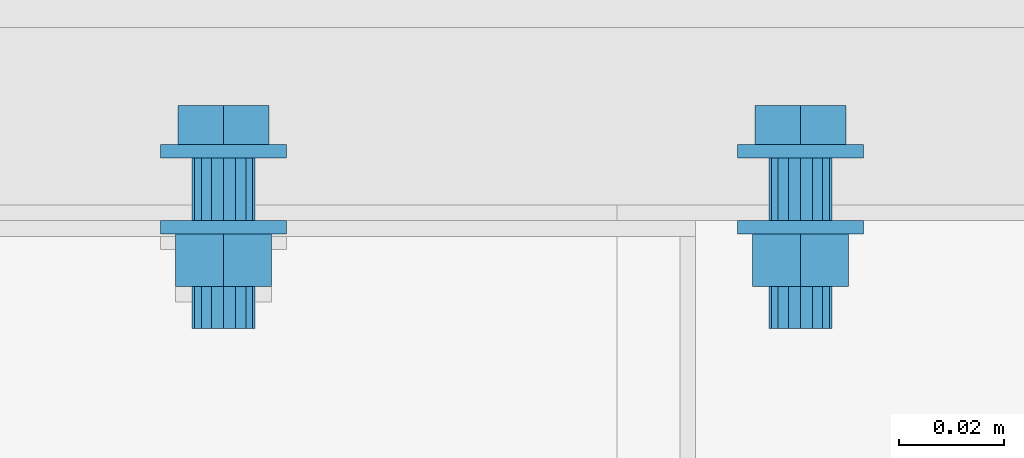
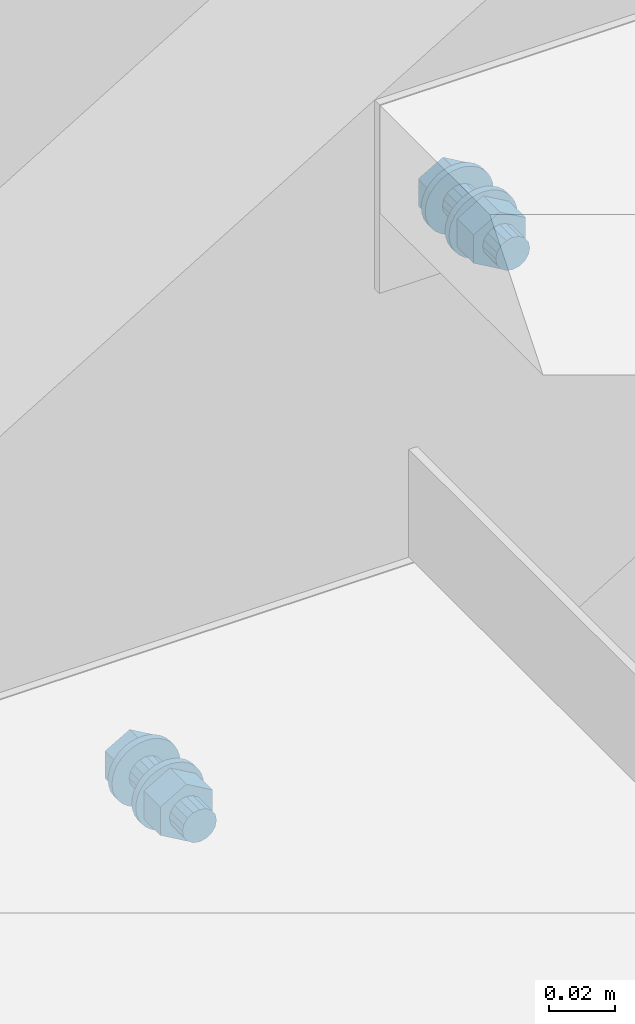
# One storey, part 296 of 410: 2 mechanical fasteners.
"""IFC2X3 building model written with IfcOpenShell, lengths in millimetres."""

from ifc_helpers import new_model, entity, si_unit, converted_unit, origin_with_axes, place, context, project, spatial, faceted_brep, element, save


model = new_model("IFC2X3")

# Units and contexts
model_context = context("Model", 3, precision=1e-09, world=origin_with_axes())
ifc_project = project(units=[si_unit("LENGTHUNIT", "METRE", prefix="MILLI"), si_unit("AREAUNIT", "SQUARE_METRE"), si_unit("VOLUMEUNIT", "CUBIC_METRE"), converted_unit("PLANEANGLEUNIT", "DEGREE", entity("IfcPlaneAngleMeasure", 0.01745329), si_unit("PLANEANGLEUNIT", "RADIAN"), dimensions=[0, 0, 0, 0, 0, 0, 0])], contexts=[model_context])

# Site, building, storey
site_placement = place(None, origin_with_axes())
site = spatial("IfcSite", under=ifc_project, at=site_placement, Name="mKR Teilneubau & Sanierung BA1 - Ostfildern", CompositionType="ELEMENT")
building_placement = place(site_placement, origin_with_axes())
building = spatial("IfcBuilding", under=site, at=building_placement, Name="Struktur 1", CompositionType="ELEMENT")
storey_placement = place(building_placement, origin_with_axes())
storey = spatial("IfcBuildingStorey", under=building, at=storey_placement, Name="Default Storey", CompositionType="ELEMENT", Elevation=0.0)

# Mechanical fasteners
mechanical_fastener_1_placement = place(None, origin_with_axes())
element("IfcMechanicalFastener", 1, at=mechanical_fastener_1_placement, inside=storey, ObjectType="Bolt", NominalDiameter=12.0, NominalLength=35.0, context=model_context, shape_type="Brep", body=[
    faceted_brep([(818.0, 16731.499999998, 1336.304348), (818.0, 16728.999999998, 1336.304348), (818.230576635, 16728.999999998, 1338.645431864), (818.230576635, 16731.499999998, 1338.645431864), (818.91344561, 16728.999999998, 1340.896549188), (818.91344561, 16731.499999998, 1340.896549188), (820.022364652, 16728.999999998, 1342.971190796), (820.022364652, 16731.499999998, 1342.971190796), (821.514718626, 16728.999999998, 1344.789629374), (821.514718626, 16731.499999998, 1344.789629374), (823.333157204, 16728.999999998, 1346.281983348), (823.333157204, 16731.499999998, 1346.281983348), (825.407798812, 16728.999999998, 1347.39090239), (825.407798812, 16731.499999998, 1347.39090239), (827.658916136, 16728.999999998, 1348.073771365), (827.658916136, 16731.499999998, 1348.073771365), (830.0, 16728.999999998, 1348.304348), (830.0, 16731.499999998, 1348.304348), (832.341083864, 16728.999999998, 1348.073771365), (832.341083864, 16731.499999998, 1348.073771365), (834.592201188, 16728.999999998, 1347.39090239), (834.592201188, 16731.499999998, 1347.39090239), (836.666842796, 16728.999999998, 1346.281983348), (836.666842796, 16731.499999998, 1346.281983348), (838.485281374, 16728.999999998, 1344.789629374), (838.485281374, 16731.499999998, 1344.789629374), (839.977635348, 16728.999999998, 1342.971190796), (839.977635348, 16731.499999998, 1342.971190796), (841.08655439, 16728.999999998, 1340.896549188), (841.08655439, 16731.499999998, 1340.896549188), (841.769423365, 16728.999999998, 1338.645431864), (841.769423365, 16731.499999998, 1338.645431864), (842.0, 16728.999999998, 1336.304348), (842.0, 16731.499999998, 1336.304348), (841.769423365, 16728.999999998, 1333.963264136), (841.769423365, 16731.499999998, 1333.963264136), (841.08655439, 16728.999999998, 1331.712146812), (841.08655439, 16731.499999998, 1331.712146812), (839.977635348, 16728.999999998, 1329.637505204), (839.977635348, 16731.499999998, 1329.637505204), (838.485281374, 16728.999999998, 1327.819066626), (838.485281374, 16731.499999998, 1327.819066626), (836.666842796, 16728.999999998, 1326.326712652), (836.666842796, 16731.499999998, 1326.326712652), (834.592201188, 16728.999999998, 1325.21779361), (834.592201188, 16731.499999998, 1325.21779361), (832.341083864, 16728.999999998, 1324.534924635), (832.341083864, 16731.499999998, 1324.534924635), (830.0, 16728.999999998, 1324.304348), (830.0, 16731.499999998, 1324.304348), (827.658916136, 16728.999999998, 1324.534924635), (827.658916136, 16731.499999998, 1324.534924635), (825.407798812, 16728.999999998, 1325.21779361), (825.407798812, 16731.499999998, 1325.21779361), (823.333157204, 16728.999999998, 1326.326712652), (823.333157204, 16731.499999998, 1326.326712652), (821.514718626, 16728.999999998, 1327.819066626), (821.514718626, 16731.499999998, 1327.819066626), (820.022364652, 16728.999999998, 1329.637505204), (820.022364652, 16731.499999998, 1329.637505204), (818.91344561, 16728.999999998, 1331.712146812), (818.91344561, 16731.499999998, 1331.712146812), (818.230576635, 16728.999999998, 1333.963264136), (818.230576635, 16731.499999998, 1333.963264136)], [[[0, 1, 2, 3]], [[3, 2, 4, 5]], [[5, 4, 6, 7]], [[7, 6, 8, 9]], [[9, 8, 10, 11]], [[11, 10, 12, 13]], [[13, 12, 14, 15]], [[15, 14, 16, 17]], [[17, 16, 18, 19]], [[19, 18, 20, 21]], [[21, 20, 22, 23]], [[23, 22, 24, 25]], [[25, 24, 26, 27]], [[27, 26, 28, 29]], [[29, 28, 30, 31]], [[31, 30, 32, 33]], [[33, 32, 34, 35]], [[35, 34, 36, 37]], [[37, 36, 38, 39]], [[39, 38, 40, 41]], [[41, 40, 42, 43]], [[43, 42, 44, 45]], [[45, 44, 46, 47]], [[47, 46, 48, 49]], [[49, 48, 50, 51]], [[51, 50, 52, 53]], [[53, 52, 54, 55]], [[55, 54, 56, 57]], [[57, 56, 58, 59]], [[59, 58, 60, 61]], [[61, 60, 62, 63]], [[63, 62, 1, 0]], [[0, 3, 5, 7, 9, 11, 13, 15, 17, 19, 21, 23, 25, 27, 29, 31, 33, 35, 37, 39, 41, 43, 45, 47, 49, 51, 53, 55, 57, 59, 61, 63]], [[1, 62, 60, 58, 56, 54, 52, 50, 48, 46, 44, 42, 40, 38, 36, 34, 32, 30, 28, 26, 24, 22, 20, 18, 16, 14, 12, 10, 8, 6, 4, 2]]]),
    faceted_brep([(838.673244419, 16731.499999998, 1341.311848), (838.673244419, 16738.999999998, 1341.311848), (830.0, 16738.999999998, 1346.319348), (830.0, 16731.499999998, 1346.319348), (821.326755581, 16738.999999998, 1341.311848), (821.326755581, 16731.499999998, 1341.311848), (821.326755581, 16738.999999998, 1331.296848), (821.326755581, 16731.499999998, 1331.296848), (830.0, 16738.999999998, 1326.289348), (830.0, 16731.499999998, 1326.289348), (838.673244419, 16738.999999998, 1331.296848), (838.673244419, 16731.499999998, 1331.296848)], [[[0, 1, 2, 3]], [[3, 2, 4, 5]], [[5, 4, 6, 7]], [[7, 6, 8, 9]], [[9, 8, 10, 11]], [[11, 10, 1, 0]], [[4, 2, 1, 10, 8, 6]], [[0, 3, 5, 7, 9, 11]]]),
    faceted_brep([(824.0, 16728.999999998, 1336.304348), (824.0, 16716.999999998, 1336.304348), (824.456722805, 16716.999999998, 1338.600448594), (824.456722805, 16728.999999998, 1338.600448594), (825.757359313, 16716.999999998, 1340.546988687), (825.757359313, 16728.999999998, 1340.546988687), (827.703899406, 16716.999999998, 1341.847625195), (827.703899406, 16728.999999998, 1341.847625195), (830.0, 16716.999999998, 1342.304348), (830.0, 16728.999999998, 1342.304348), (832.296100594, 16716.999999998, 1341.847625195), (832.296100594, 16728.999999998, 1341.847625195), (834.242640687, 16716.999999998, 1340.546988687), (834.242640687, 16728.999999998, 1340.546988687), (835.543277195, 16716.999999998, 1338.600448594), (835.543277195, 16728.999999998, 1338.600448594), (836.0, 16716.999999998, 1336.304348), (836.0, 16728.999999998, 1336.304348), (835.543277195, 16716.999999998, 1334.008247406), (835.543277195, 16728.999999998, 1334.008247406), (834.242640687, 16716.999999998, 1332.061707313), (834.242640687, 16728.999999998, 1332.061707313), (832.296100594, 16716.999999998, 1330.761070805), (832.296100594, 16728.999999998, 1330.761070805), (830.0, 16716.999999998, 1330.304348), (830.0, 16728.999999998, 1330.304348), (827.703899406, 16716.999999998, 1330.761070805), (827.703899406, 16728.999999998, 1330.761070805), (825.757359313, 16716.999999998, 1332.061707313), (825.757359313, 16728.999999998, 1332.061707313), (824.456722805, 16716.999999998, 1334.008247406), (824.456722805, 16728.999999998, 1334.008247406)], [[[0, 1, 2, 3]], [[3, 2, 4, 5]], [[5, 4, 6, 7]], [[7, 6, 8, 9]], [[9, 8, 10, 11]], [[11, 10, 12, 13]], [[13, 12, 14, 15]], [[15, 14, 16, 17]], [[17, 16, 18, 19]], [[19, 18, 20, 21]], [[21, 20, 22, 23]], [[23, 22, 24, 25]], [[25, 24, 26, 27]], [[27, 26, 28, 29]], [[29, 28, 30, 31]], [[31, 30, 1, 0]], [[0, 3, 5, 7, 9, 11, 13, 15, 17, 19, 21, 23, 25, 27, 29, 31]], [[1, 30, 28, 26, 24, 22, 20, 18, 16, 14, 12, 10, 8, 6, 4, 2]]]),
    faceted_brep([(818.0, 16716.999999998, 1336.304348), (818.0, 16714.499999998, 1336.304348), (818.230576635, 16714.499999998, 1338.645431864), (818.230576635, 16716.999999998, 1338.645431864), (818.91344561, 16714.499999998, 1340.896549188), (818.91344561, 16716.999999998, 1340.896549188), (820.022364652, 16714.499999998, 1342.971190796), (820.022364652, 16716.999999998, 1342.971190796), (821.514718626, 16714.499999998, 1344.789629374), (821.514718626, 16716.999999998, 1344.789629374), (823.333157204, 16714.499999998, 1346.281983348), (823.333157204, 16716.999999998, 1346.281983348), (825.407798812, 16714.499999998, 1347.39090239), (825.407798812, 16716.999999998, 1347.39090239), (827.658916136, 16714.499999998, 1348.073771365), (827.658916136, 16716.999999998, 1348.073771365), (830.0, 16714.499999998, 1348.304348), (830.0, 16716.999999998, 1348.304348), (832.341083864, 16714.499999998, 1348.073771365), (832.341083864, 16716.999999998, 1348.073771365), (834.592201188, 16714.499999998, 1347.39090239), (834.592201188, 16716.999999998, 1347.39090239), (836.666842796, 16714.499999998, 1346.281983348), (836.666842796, 16716.999999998, 1346.281983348), (838.485281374, 16714.499999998, 1344.789629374), (838.485281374, 16716.999999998, 1344.789629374), (839.977635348, 16714.499999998, 1342.971190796), (839.977635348, 16716.999999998, 1342.971190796), (841.08655439, 16714.499999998, 1340.896549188), (841.08655439, 16716.999999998, 1340.896549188), (841.769423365, 16714.499999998, 1338.645431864), (841.769423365, 16716.999999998, 1338.645431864), (842.0, 16714.499999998, 1336.304348), (842.0, 16716.999999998, 1336.304348), (841.769423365, 16714.499999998, 1333.963264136), (841.769423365, 16716.999999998, 1333.963264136), (841.08655439, 16714.499999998, 1331.712146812), (841.08655439, 16716.999999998, 1331.712146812), (839.977635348, 16714.499999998, 1329.637505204), (839.977635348, 16716.999999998, 1329.637505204), (838.485281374, 16714.499999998, 1327.819066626), (838.485281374, 16716.999999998, 1327.819066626), (836.666842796, 16714.499999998, 1326.326712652), (836.666842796, 16716.999999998, 1326.326712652), (834.592201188, 16714.499999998, 1325.21779361), (834.592201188, 16716.999999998, 1325.21779361), (832.341083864, 16714.499999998, 1324.534924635), (832.341083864, 16716.999999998, 1324.534924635), (830.0, 16714.499999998, 1324.304348), (830.0, 16716.999999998, 1324.304348), (827.658916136, 16714.499999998, 1324.534924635), (827.658916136, 16716.999999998, 1324.534924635), (825.407798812, 16714.499999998, 1325.21779361), (825.407798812, 16716.999999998, 1325.21779361), (823.333157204, 16714.499999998, 1326.326712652), (823.333157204, 16716.999999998, 1326.326712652), (821.514718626, 16714.499999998, 1327.819066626), (821.514718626, 16716.999999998, 1327.819066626), (820.022364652, 16714.499999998, 1329.637505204), (820.022364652, 16716.999999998, 1329.637505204), (818.91344561, 16714.499999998, 1331.712146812), (818.91344561, 16716.999999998, 1331.712146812), (818.230576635, 16714.499999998, 1333.963264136), (818.230576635, 16716.999999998, 1333.963264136)], [[[0, 1, 2, 3]], [[3, 2, 4, 5]], [[5, 4, 6, 7]], [[7, 6, 8, 9]], [[9, 8, 10, 11]], [[11, 10, 12, 13]], [[13, 12, 14, 15]], [[15, 14, 16, 17]], [[17, 16, 18, 19]], [[19, 18, 20, 21]], [[21, 20, 22, 23]], [[23, 22, 24, 25]], [[25, 24, 26, 27]], [[27, 26, 28, 29]], [[29, 28, 30, 31]], [[31, 30, 32, 33]], [[33, 32, 34, 35]], [[35, 34, 36, 37]], [[37, 36, 38, 39]], [[39, 38, 40, 41]], [[41, 40, 42, 43]], [[43, 42, 44, 45]], [[45, 44, 46, 47]], [[47, 46, 48, 49]], [[49, 48, 50, 51]], [[51, 50, 52, 53]], [[53, 52, 54, 55]], [[55, 54, 56, 57]], [[57, 56, 58, 59]], [[59, 58, 60, 61]], [[61, 60, 62, 63]], [[63, 62, 1, 0]], [[0, 3, 5, 7, 9, 11, 13, 15, 17, 19, 21, 23, 25, 27, 29, 31, 33, 35, 37, 39, 41, 43, 45, 47, 49, 51, 53, 55, 57, 59, 61, 63]], [[1, 62, 60, 58, 56, 54, 52, 50, 48, 46, 44, 42, 40, 38, 36, 34, 32, 30, 28, 26, 24, 22, 20, 18, 16, 14, 12, 10, 8, 6, 4, 2]]]),
    faceted_brep([(839.13656801, 16704.499999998, 1341.579348), (839.13656801, 16714.499999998, 1341.579348), (830.0, 16714.499999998, 1346.854348), (830.0, 16704.499999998, 1346.854348), (820.86343199, 16714.499999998, 1341.579348), (820.86343199, 16704.499999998, 1341.579348), (820.86343199, 16714.499999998, 1331.029348), (820.86343199, 16704.499999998, 1331.029348), (830.0, 16714.499999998, 1325.754348), (830.0, 16704.499999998, 1325.754348), (839.13656801, 16714.499999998, 1331.029348), (839.13656801, 16704.499999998, 1331.029348)], [[[0, 1, 2, 3]], [[3, 2, 4, 5]], [[5, 4, 6, 7]], [[7, 6, 8, 9]], [[9, 8, 10, 11]], [[11, 10, 1, 0]], [[4, 2, 1, 10, 8, 6]], [[0, 3, 5, 7, 9, 11]]]),
    faceted_brep([(824.0, 16704.499999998, 1336.304348), (824.0, 16696.499999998, 1336.304348), (824.456722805, 16696.499999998, 1338.600448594), (824.456722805, 16704.499999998, 1338.600448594), (825.757359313, 16696.499999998, 1340.546988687), (825.757359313, 16704.499999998, 1340.546988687), (827.703899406, 16696.499999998, 1341.847625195), (827.703899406, 16704.499999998, 1341.847625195), (830.0, 16696.499999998, 1342.304348), (830.0, 16704.499999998, 1342.304348), (832.296100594, 16696.499999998, 1341.847625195), (832.296100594, 16704.499999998, 1341.847625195), (834.242640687, 16696.499999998, 1340.546988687), (834.242640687, 16704.499999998, 1340.546988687), (835.543277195, 16696.499999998, 1338.600448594), (835.543277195, 16704.499999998, 1338.600448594), (836.0, 16696.499999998, 1336.304348), (836.0, 16704.499999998, 1336.304348), (835.543277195, 16696.499999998, 1334.008247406), (835.543277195, 16704.499999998, 1334.008247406), (834.242640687, 16696.499999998, 1332.061707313), (834.242640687, 16704.499999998, 1332.061707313), (832.296100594, 16696.499999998, 1330.761070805), (832.296100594, 16704.499999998, 1330.761070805), (830.0, 16696.499999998, 1330.304348), (830.0, 16704.499999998, 1330.304348), (827.703899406, 16696.499999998, 1330.761070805), (827.703899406, 16704.499999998, 1330.761070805), (825.757359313, 16696.499999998, 1332.061707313), (825.757359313, 16704.499999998, 1332.061707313), (824.456722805, 16696.499999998, 1334.008247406), (824.456722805, 16704.499999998, 1334.008247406)], [[[0, 1, 2, 3]], [[3, 2, 4, 5]], [[5, 4, 6, 7]], [[7, 6, 8, 9]], [[9, 8, 10, 11]], [[11, 10, 12, 13]], [[13, 12, 14, 15]], [[15, 14, 16, 17]], [[17, 16, 18, 19]], [[19, 18, 20, 21]], [[21, 20, 22, 23]], [[23, 22, 24, 25]], [[25, 24, 26, 27]], [[27, 26, 28, 29]], [[29, 28, 30, 31]], [[31, 30, 1, 0]], [[0, 3, 5, 7, 9, 11, 13, 15, 17, 19, 21, 23, 25, 27, 29, 31]], [[1, 30, 28, 26, 24, 22, 20, 18, 16, 14, 12, 10, 8, 6, 4, 2]]]),
])
mechanical_fastener_2_placement = place(None, origin_with_axes())
element("IfcMechanicalFastener", 2, at=mechanical_fastener_2_placement, inside=storey, ObjectType="Bolt", NominalDiameter=12.0, NominalLength=35.0, context=model_context, shape_type="Brep", body=[
    faceted_brep([(928.0, 16731.499999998, 1510.2173915), (928.0, 16728.999999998, 1510.2173915), (928.230576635, 16728.999999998, 1512.558475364), (928.230576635, 16731.499999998, 1512.558475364), (928.91344561, 16728.999999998, 1514.809592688), (928.91344561, 16731.499999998, 1514.809592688), (930.022364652, 16728.999999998, 1516.884234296), (930.022364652, 16731.499999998, 1516.884234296), (931.514718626, 16728.999999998, 1518.702672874), (931.514718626, 16731.499999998, 1518.702672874), (933.333157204, 16728.999999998, 1520.195026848), (933.333157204, 16731.499999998, 1520.195026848), (935.407798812, 16728.999999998, 1521.30394589), (935.407798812, 16731.499999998, 1521.30394589), (937.658916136, 16728.999999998, 1521.986814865), (937.658916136, 16731.499999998, 1521.986814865), (940.0, 16728.999999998, 1522.2173915), (940.0, 16731.499999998, 1522.2173915), (942.341083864, 16728.999999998, 1521.986814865), (942.341083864, 16731.499999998, 1521.986814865), (944.592201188, 16728.999999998, 1521.30394589), (944.592201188, 16731.499999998, 1521.30394589), (946.666842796, 16728.999999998, 1520.195026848), (946.666842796, 16731.499999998, 1520.195026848), (948.485281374, 16728.999999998, 1518.702672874), (948.485281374, 16731.499999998, 1518.702672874), (949.977635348, 16728.999999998, 1516.884234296), (949.977635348, 16731.499999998, 1516.884234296), (951.08655439, 16728.999999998, 1514.809592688), (951.08655439, 16731.499999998, 1514.809592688), (951.769423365, 16728.999999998, 1512.558475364), (951.769423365, 16731.499999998, 1512.558475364), (952.0, 16728.999999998, 1510.2173915), (952.0, 16731.499999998, 1510.2173915), (951.769423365, 16728.999999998, 1507.876307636), (951.769423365, 16731.499999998, 1507.876307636), (951.08655439, 16728.999999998, 1505.625190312), (951.08655439, 16731.499999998, 1505.625190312), (949.977635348, 16728.999999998, 1503.550548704), (949.977635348, 16731.499999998, 1503.550548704), (948.485281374, 16728.999999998, 1501.732110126), (948.485281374, 16731.499999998, 1501.732110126), (946.666842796, 16728.999999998, 1500.239756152), (946.666842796, 16731.499999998, 1500.239756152), (944.592201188, 16728.999999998, 1499.13083711), (944.592201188, 16731.499999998, 1499.13083711), (942.341083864, 16728.999999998, 1498.447968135), (942.341083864, 16731.499999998, 1498.447968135), (940.0, 16728.999999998, 1498.2173915), (940.0, 16731.499999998, 1498.2173915), (937.658916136, 16728.999999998, 1498.447968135), (937.658916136, 16731.499999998, 1498.447968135), (935.407798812, 16728.999999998, 1499.13083711), (935.407798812, 16731.499999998, 1499.13083711), (933.333157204, 16728.999999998, 1500.239756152), (933.333157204, 16731.499999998, 1500.239756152), (931.514718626, 16728.999999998, 1501.732110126), (931.514718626, 16731.499999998, 1501.732110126), (930.022364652, 16728.999999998, 1503.550548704), (930.022364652, 16731.499999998, 1503.550548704), (928.91344561, 16728.999999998, 1505.625190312), (928.91344561, 16731.499999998, 1505.625190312), (928.230576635, 16728.999999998, 1507.876307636), (928.230576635, 16731.499999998, 1507.876307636)], [[[0, 1, 2, 3]], [[3, 2, 4, 5]], [[5, 4, 6, 7]], [[7, 6, 8, 9]], [[9, 8, 10, 11]], [[11, 10, 12, 13]], [[13, 12, 14, 15]], [[15, 14, 16, 17]], [[17, 16, 18, 19]], [[19, 18, 20, 21]], [[21, 20, 22, 23]], [[23, 22, 24, 25]], [[25, 24, 26, 27]], [[27, 26, 28, 29]], [[29, 28, 30, 31]], [[31, 30, 32, 33]], [[33, 32, 34, 35]], [[35, 34, 36, 37]], [[37, 36, 38, 39]], [[39, 38, 40, 41]], [[41, 40, 42, 43]], [[43, 42, 44, 45]], [[45, 44, 46, 47]], [[47, 46, 48, 49]], [[49, 48, 50, 51]], [[51, 50, 52, 53]], [[53, 52, 54, 55]], [[55, 54, 56, 57]], [[57, 56, 58, 59]], [[59, 58, 60, 61]], [[61, 60, 62, 63]], [[63, 62, 1, 0]], [[0, 3, 5, 7, 9, 11, 13, 15, 17, 19, 21, 23, 25, 27, 29, 31, 33, 35, 37, 39, 41, 43, 45, 47, 49, 51, 53, 55, 57, 59, 61, 63]], [[1, 62, 60, 58, 56, 54, 52, 50, 48, 46, 44, 42, 40, 38, 36, 34, 32, 30, 28, 26, 24, 22, 20, 18, 16, 14, 12, 10, 8, 6, 4, 2]]]),
    faceted_brep([(948.673244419, 16731.499999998, 1515.2248915), (948.673244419, 16738.999999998, 1515.2248915), (940.0, 16738.999999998, 1520.2323915), (940.0, 16731.499999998, 1520.2323915), (931.326755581, 16738.999999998, 1515.2248915), (931.326755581, 16731.499999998, 1515.2248915), (931.326755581, 16738.999999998, 1505.2098915), (931.326755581, 16731.499999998, 1505.2098915), (940.0, 16738.999999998, 1500.2023915), (940.0, 16731.499999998, 1500.2023915), (948.673244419, 16738.999999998, 1505.2098915), (948.673244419, 16731.499999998, 1505.2098915)], [[[0, 1, 2, 3]], [[3, 2, 4, 5]], [[5, 4, 6, 7]], [[7, 6, 8, 9]], [[9, 8, 10, 11]], [[11, 10, 1, 0]], [[4, 2, 1, 10, 8, 6]], [[0, 3, 5, 7, 9, 11]]]),
    faceted_brep([(934.0, 16728.999999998, 1510.2173915), (934.0, 16716.999999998, 1510.2173915), (934.456722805, 16716.999999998, 1512.513492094), (934.456722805, 16728.999999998, 1512.513492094), (935.757359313, 16716.999999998, 1514.460032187), (935.757359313, 16728.999999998, 1514.460032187), (937.703899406, 16716.999999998, 1515.760668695), (937.703899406, 16728.999999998, 1515.760668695), (940.0, 16716.999999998, 1516.2173915), (940.0, 16728.999999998, 1516.2173915), (942.296100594, 16716.999999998, 1515.760668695), (942.296100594, 16728.999999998, 1515.760668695), (944.242640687, 16716.999999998, 1514.460032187), (944.242640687, 16728.999999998, 1514.460032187), (945.543277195, 16716.999999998, 1512.513492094), (945.543277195, 16728.999999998, 1512.513492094), (946.0, 16716.999999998, 1510.2173915), (946.0, 16728.999999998, 1510.2173915), (945.543277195, 16716.999999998, 1507.921290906), (945.543277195, 16728.999999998, 1507.921290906), (944.242640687, 16716.999999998, 1505.974750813), (944.242640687, 16728.999999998, 1505.974750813), (942.296100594, 16716.999999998, 1504.674114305), (942.296100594, 16728.999999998, 1504.674114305), (940.0, 16716.999999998, 1504.2173915), (940.0, 16728.999999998, 1504.2173915), (937.703899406, 16716.999999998, 1504.674114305), (937.703899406, 16728.999999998, 1504.674114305), (935.757359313, 16716.999999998, 1505.974750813), (935.757359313, 16728.999999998, 1505.974750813), (934.456722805, 16716.999999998, 1507.921290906), (934.456722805, 16728.999999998, 1507.921290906)], [[[0, 1, 2, 3]], [[3, 2, 4, 5]], [[5, 4, 6, 7]], [[7, 6, 8, 9]], [[9, 8, 10, 11]], [[11, 10, 12, 13]], [[13, 12, 14, 15]], [[15, 14, 16, 17]], [[17, 16, 18, 19]], [[19, 18, 20, 21]], [[21, 20, 22, 23]], [[23, 22, 24, 25]], [[25, 24, 26, 27]], [[27, 26, 28, 29]], [[29, 28, 30, 31]], [[31, 30, 1, 0]], [[0, 3, 5, 7, 9, 11, 13, 15, 17, 19, 21, 23, 25, 27, 29, 31]], [[1, 30, 28, 26, 24, 22, 20, 18, 16, 14, 12, 10, 8, 6, 4, 2]]]),
    faceted_brep([(928.0, 16716.999999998, 1510.2173915), (928.0, 16714.499999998, 1510.2173915), (928.230576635, 16714.499999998, 1512.558475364), (928.230576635, 16716.999999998, 1512.558475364), (928.91344561, 16714.499999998, 1514.809592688), (928.91344561, 16716.999999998, 1514.809592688), (930.022364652, 16714.499999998, 1516.884234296), (930.022364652, 16716.999999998, 1516.884234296), (931.514718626, 16714.499999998, 1518.702672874), (931.514718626, 16716.999999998, 1518.702672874), (933.333157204, 16714.499999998, 1520.195026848), (933.333157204, 16716.999999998, 1520.195026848), (935.407798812, 16714.499999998, 1521.30394589), (935.407798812, 16716.999999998, 1521.30394589), (937.658916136, 16714.499999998, 1521.986814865), (937.658916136, 16716.999999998, 1521.986814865), (940.0, 16714.499999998, 1522.2173915), (940.0, 16716.999999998, 1522.2173915), (942.341083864, 16714.499999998, 1521.986814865), (942.341083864, 16716.999999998, 1521.986814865), (944.592201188, 16714.499999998, 1521.30394589), (944.592201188, 16716.999999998, 1521.30394589), (946.666842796, 16714.499999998, 1520.195026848), (946.666842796, 16716.999999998, 1520.195026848), (948.485281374, 16714.499999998, 1518.702672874), (948.485281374, 16716.999999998, 1518.702672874), (949.977635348, 16714.499999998, 1516.884234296), (949.977635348, 16716.999999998, 1516.884234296), (951.08655439, 16714.499999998, 1514.809592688), (951.08655439, 16716.999999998, 1514.809592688), (951.769423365, 16714.499999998, 1512.558475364), (951.769423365, 16716.999999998, 1512.558475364), (952.0, 16714.499999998, 1510.2173915), (952.0, 16716.999999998, 1510.2173915), (951.769423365, 16714.499999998, 1507.876307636), (951.769423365, 16716.999999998, 1507.876307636), (951.08655439, 16714.499999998, 1505.625190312), (951.08655439, 16716.999999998, 1505.625190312), (949.977635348, 16714.499999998, 1503.550548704), (949.977635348, 16716.999999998, 1503.550548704), (948.485281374, 16714.499999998, 1501.732110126), (948.485281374, 16716.999999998, 1501.732110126), (946.666842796, 16714.499999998, 1500.239756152), (946.666842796, 16716.999999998, 1500.239756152), (944.592201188, 16714.499999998, 1499.13083711), (944.592201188, 16716.999999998, 1499.13083711), (942.341083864, 16714.499999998, 1498.447968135), (942.341083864, 16716.999999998, 1498.447968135), (940.0, 16714.499999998, 1498.2173915), (940.0, 16716.999999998, 1498.2173915), (937.658916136, 16714.499999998, 1498.447968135), (937.658916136, 16716.999999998, 1498.447968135), (935.407798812, 16714.499999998, 1499.13083711), (935.407798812, 16716.999999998, 1499.13083711), (933.333157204, 16714.499999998, 1500.239756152), (933.333157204, 16716.999999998, 1500.239756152), (931.514718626, 16714.499999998, 1501.732110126), (931.514718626, 16716.999999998, 1501.732110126), (930.022364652, 16714.499999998, 1503.550548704), (930.022364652, 16716.999999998, 1503.550548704), (928.91344561, 16714.499999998, 1505.625190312), (928.91344561, 16716.999999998, 1505.625190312), (928.230576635, 16714.499999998, 1507.876307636), (928.230576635, 16716.999999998, 1507.876307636)], [[[0, 1, 2, 3]], [[3, 2, 4, 5]], [[5, 4, 6, 7]], [[7, 6, 8, 9]], [[9, 8, 10, 11]], [[11, 10, 12, 13]], [[13, 12, 14, 15]], [[15, 14, 16, 17]], [[17, 16, 18, 19]], [[19, 18, 20, 21]], [[21, 20, 22, 23]], [[23, 22, 24, 25]], [[25, 24, 26, 27]], [[27, 26, 28, 29]], [[29, 28, 30, 31]], [[31, 30, 32, 33]], [[33, 32, 34, 35]], [[35, 34, 36, 37]], [[37, 36, 38, 39]], [[39, 38, 40, 41]], [[41, 40, 42, 43]], [[43, 42, 44, 45]], [[45, 44, 46, 47]], [[47, 46, 48, 49]], [[49, 48, 50, 51]], [[51, 50, 52, 53]], [[53, 52, 54, 55]], [[55, 54, 56, 57]], [[57, 56, 58, 59]], [[59, 58, 60, 61]], [[61, 60, 62, 63]], [[63, 62, 1, 0]], [[0, 3, 5, 7, 9, 11, 13, 15, 17, 19, 21, 23, 25, 27, 29, 31, 33, 35, 37, 39, 41, 43, 45, 47, 49, 51, 53, 55, 57, 59, 61, 63]], [[1, 62, 60, 58, 56, 54, 52, 50, 48, 46, 44, 42, 40, 38, 36, 34, 32, 30, 28, 26, 24, 22, 20, 18, 16, 14, 12, 10, 8, 6, 4, 2]]]),
    faceted_brep([(949.13656801, 16704.499999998, 1515.4923915), (949.13656801, 16714.499999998, 1515.4923915), (940.0, 16714.499999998, 1520.7673915), (940.0, 16704.499999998, 1520.7673915), (930.86343199, 16714.499999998, 1515.4923915), (930.86343199, 16704.499999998, 1515.4923915), (930.86343199, 16714.499999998, 1504.9423915), (930.86343199, 16704.499999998, 1504.9423915), (940.0, 16714.499999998, 1499.6673915), (940.0, 16704.499999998, 1499.6673915), (949.13656801, 16714.499999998, 1504.9423915), (949.13656801, 16704.499999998, 1504.9423915)], [[[0, 1, 2, 3]], [[3, 2, 4, 5]], [[5, 4, 6, 7]], [[7, 6, 8, 9]], [[9, 8, 10, 11]], [[11, 10, 1, 0]], [[4, 2, 1, 10, 8, 6]], [[0, 3, 5, 7, 9, 11]]]),
    faceted_brep([(934.0, 16704.499999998, 1510.2173915), (934.0, 16696.499999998, 1510.2173915), (934.456722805, 16696.499999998, 1512.513492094), (934.456722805, 16704.499999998, 1512.513492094), (935.757359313, 16696.499999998, 1514.460032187), (935.757359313, 16704.499999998, 1514.460032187), (937.703899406, 16696.499999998, 1515.760668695), (937.703899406, 16704.499999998, 1515.760668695), (940.0, 16696.499999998, 1516.2173915), (940.0, 16704.499999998, 1516.2173915), (942.296100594, 16696.499999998, 1515.760668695), (942.296100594, 16704.499999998, 1515.760668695), (944.242640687, 16696.499999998, 1514.460032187), (944.242640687, 16704.499999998, 1514.460032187), (945.543277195, 16696.499999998, 1512.513492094), (945.543277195, 16704.499999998, 1512.513492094), (946.0, 16696.499999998, 1510.2173915), (946.0, 16704.499999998, 1510.2173915), (945.543277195, 16696.499999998, 1507.921290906), (945.543277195, 16704.499999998, 1507.921290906), (944.242640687, 16696.499999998, 1505.974750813), (944.242640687, 16704.499999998, 1505.974750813), (942.296100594, 16696.499999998, 1504.674114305), (942.296100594, 16704.499999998, 1504.674114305), (940.0, 16696.499999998, 1504.2173915), (940.0, 16704.499999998, 1504.2173915), (937.703899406, 16696.499999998, 1504.674114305), (937.703899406, 16704.499999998, 1504.674114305), (935.757359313, 16696.499999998, 1505.974750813), (935.757359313, 16704.499999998, 1505.974750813), (934.456722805, 16696.499999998, 1507.921290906), (934.456722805, 16704.499999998, 1507.921290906)], [[[0, 1, 2, 3]], [[3, 2, 4, 5]], [[5, 4, 6, 7]], [[7, 6, 8, 9]], [[9, 8, 10, 11]], [[11, 10, 12, 13]], [[13, 12, 14, 15]], [[15, 14, 16, 17]], [[17, 16, 18, 19]], [[19, 18, 20, 21]], [[21, 20, 22, 23]], [[23, 22, 24, 25]], [[25, 24, 26, 27]], [[27, 26, 28, 29]], [[29, 28, 30, 31]], [[31, 30, 1, 0]], [[0, 3, 5, 7, 9, 11, 13, 15, 17, 19, 21, 23, 25, 27, 29, 31]], [[1, 30, 28, 26, 24, 22, 20, 18, 16, 14, 12, 10, 8, 6, 4, 2]]]),
])

save(model, "model.ifc")
